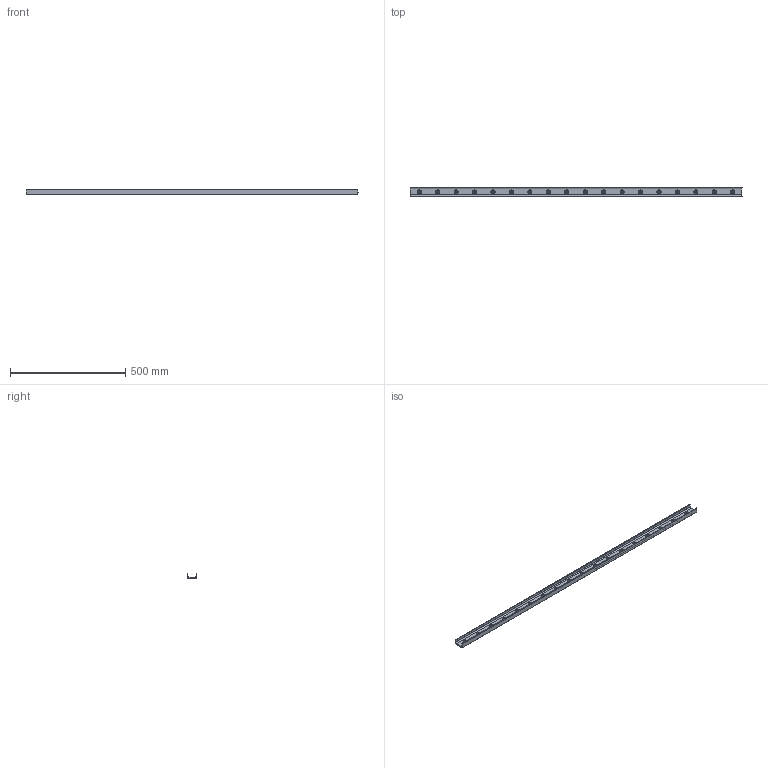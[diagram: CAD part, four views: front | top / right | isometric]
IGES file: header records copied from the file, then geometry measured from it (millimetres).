
Start section: SolidWorks IGES file using analytic representation for surfaces
Global section: file name: C:\Users\IanO\Desktop\43\L1943.ULC43_v2_20180121_IGES\L1943.ULC43-1440.igs; native system: SolidWorks 2017; preprocessor: SolidWorks 2017; author: IanO; date: 190121.084734; units: millimetre
Bounding box: 1440 x 43 x 21 mm (x, y, z)
Surface area: 226156.3 mm2 (no closed solid volume)
Topology: 0 solids, 0 shells, 116 faces, 2886 edges, 2886 vertices
Faces by surface type: revolution 85, bspline 31
